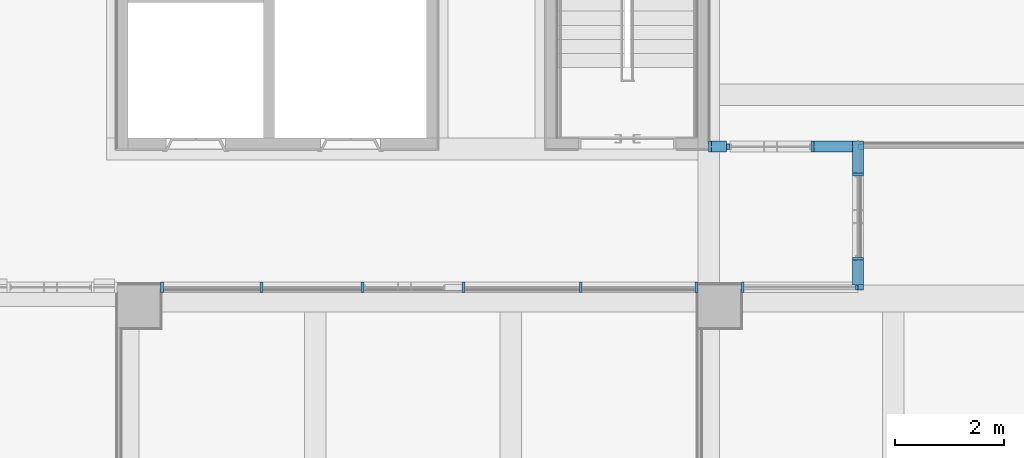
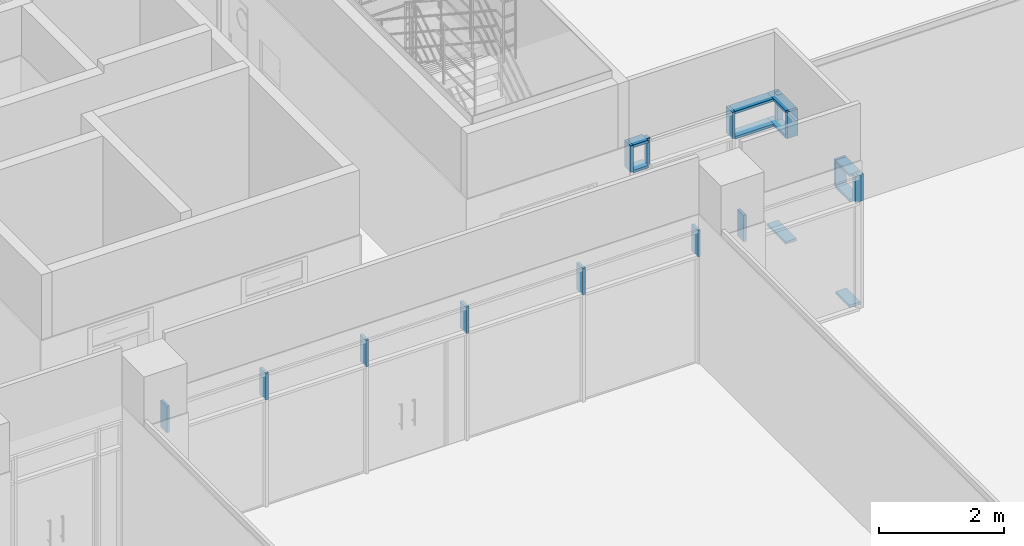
# One storey, part 17 of 76: 25 members, 4 elements without a shape of their own.
"""IFC2X3 building model written with IfcOpenShell, lengths in millimetres."""

from ifc_helpers import new_model, entity, si_unit, converted_unit, derived_unit, direction, frame, origin, origin_2d_with_axis, place, context, subcontext, project, spatial, rectangle, extrude, source, transform, mapped, material, type_object, type_shapes, element, aggregate, save


model = new_model("IFC2X3")

# Units and contexts
model_context = context("Model", 3, precision=0.01, world=origin(), true_north=direction((6.123031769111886e-17, 1.0)))
body_context = subcontext(model_context, "Body", "Model", "MODEL_VIEW")
ifc_project = project(units=[si_unit("LENGTHUNIT", "METRE", prefix="MILLI"), si_unit("AREAUNIT", "SQUARE_METRE"), si_unit("VOLUMEUNIT", "CUBIC_METRE"), converted_unit("PLANEANGLEUNIT", "DEGREE", entity("IfcRatioMeasure", 0.017453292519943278), si_unit("PLANEANGLEUNIT", "RADIAN"), dimensions=[0, 0, 0, 0, 0, 0, 0]), si_unit("MASSUNIT", "GRAM", prefix="KILO"), derived_unit("MASSDENSITYUNIT", [(si_unit("MASSUNIT", "GRAM", prefix="KILO"), 1), (si_unit("LENGTHUNIT", "METRE"), -3)]), derived_unit("MOMENTOFINERTIAUNIT", [(si_unit("LENGTHUNIT", "METRE"), 4)]), si_unit("TIMEUNIT", "SECOND"), si_unit("FREQUENCYUNIT", "HERTZ"), si_unit("THERMODYNAMICTEMPERATUREUNIT", "DEGREE_CELSIUS"), derived_unit("THERMALTRANSMITTANCEUNIT", [(si_unit("MASSUNIT", "GRAM", prefix="KILO"), 1), (si_unit("THERMODYNAMICTEMPERATUREUNIT", "KELVIN"), -1), (si_unit("TIMEUNIT", "SECOND"), -3)]), derived_unit("VOLUMETRICFLOWRATEUNIT", [(si_unit("LENGTHUNIT", "METRE"), 3), (si_unit("TIMEUNIT", "SECOND"), -1)]), derived_unit("MASSFLOWRATEUNIT", [(si_unit("MASSUNIT", "GRAM", prefix="KILO"), 1), (si_unit("TIMEUNIT", "SECOND"), -1)]), derived_unit("ROTATIONALFREQUENCYUNIT", [(si_unit("TIMEUNIT", "SECOND"), -1)]), si_unit("ELECTRICCURRENTUNIT", "AMPERE"), si_unit("ELECTRICVOLTAGEUNIT", "VOLT"), si_unit("POWERUNIT", "WATT"), si_unit("FORCEUNIT", "NEWTON", prefix="KILO"), si_unit("ILLUMINANCEUNIT", "LUX"), si_unit("LUMINOUSFLUXUNIT", "LUMEN"), si_unit("LUMINOUSINTENSITYUNIT", "CANDELA"), derived_unit("USERDEFINED", [(si_unit("MASSUNIT", "GRAM", prefix="KILO"), -1), (si_unit("LENGTHUNIT", "METRE"), -2), (si_unit("TIMEUNIT", "SECOND"), 3), (si_unit("LUMINOUSFLUXUNIT", "LUMEN"), 1)]), derived_unit("SOUNDPOWERUNIT", [(si_unit("MASSUNIT", "GRAM", prefix="KILO"), 1), (si_unit("LENGTHUNIT", "METRE"), 2), (si_unit("TIMEUNIT", "SECOND"), -3)]), derived_unit("SOUNDPRESSUREUNIT", [(si_unit("MASSUNIT", "GRAM", prefix="KILO"), 1), (si_unit("LENGTHUNIT", "METRE"), -1), (si_unit("TIMEUNIT", "SECOND"), -2)]), derived_unit("LINEARVELOCITYUNIT", [(si_unit("LENGTHUNIT", "METRE"), 1), (si_unit("TIMEUNIT", "SECOND"), -1)]), si_unit("PRESSUREUNIT", "PASCAL"), derived_unit("USERDEFINED", [(si_unit("LENGTHUNIT", "METRE"), -2), (si_unit("MASSUNIT", "GRAM", prefix="KILO"), 1), (si_unit("TIMEUNIT", "SECOND"), -2)]), derived_unit("LINEARFORCEUNIT", [(si_unit("MASSUNIT", "GRAM", prefix="KILO"), 1), (si_unit("LENGTHUNIT", "METRE"), 1), (si_unit("TIMEUNIT", "SECOND"), -2), (si_unit("LENGTHUNIT", "METRE"), -1)]), derived_unit("PLANARFORCEUNIT", [(si_unit("MASSUNIT", "GRAM", prefix="KILO"), 1), (si_unit("LENGTHUNIT", "METRE"), 1), (si_unit("TIMEUNIT", "SECOND"), -2), (si_unit("LENGTHUNIT", "METRE"), -2)])], contexts=[model_context])

# Site, building, storey
site_placement = place(None, frame((-14167.972527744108, -657.2125860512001, 0.0)))
site = spatial("IfcSite", under=ifc_project, at=site_placement, Name="Default", CompositionType="ELEMENT")
building_placement = place(site_placement, origin())
building = spatial("IfcBuilding", under=site, at=building_placement, Name="Sample Building", CompositionType="ELEMENT")
storey_placement = place(building_placement, frame((0.0, 0.0, 9300.0)))
storey = spatial("IfcBuildingStorey", under=building, at=storey_placement, Name="지상 3층", CompositionType="ELEMENT", Elevation=9300.000000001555)

# Curtain wall, member
curtain_wall_type = type_object("IfcCurtainWallType", Name="커튼월:CW112-스테인리스 스틸 커튼월", PredefinedType="NOTDEFINED")
curtain_wall_1_placement = place(storey_placement, frame((0.0, 0.0, -9300.0)))
curtain_wall_1 = element("IfcCurtainWall", 1, at=curtain_wall_1_placement, inside=storey, type_object=curtain_wall_type, Name="커튼월:CW112-스테인리스 스틸 커튼월", ObjectType="커튼월:CW112-스테인리스 스틸 커튼월")
ifc_material = material(Name="<Unnamed>")
member_type_1 = type_object("IfcMemberType", Name="직사각형 멀리언:CW200-직사각형 멀리언 50x200mm", PredefinedType="MULLION", material=ifc_material)
shared_shape_1 = source(origin(), body_context, "Body", "SweptSolid", [
    extrude(rectangle(XDim=200.0, YDim=50.0, at=origin_2d_with_axis()), frame((-25.0, 0.0, -520.0), z_axis=(0.0, 0.0, 1.0), x_axis=(0.0, -1.0, 0.0)), (0.0, 0.0, 1.0), 520.0000000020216),
])
type_shapes(member_type_1, [shared_shape_1])
member_1_placement = place(curtain_wall_1_placement, frame((30867.95511434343, 13012.194878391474, 12000.0), z_axis=(0.0, 0.0, 1.0), x_axis=(-1.0, 0.0, 0.0)))
member_1 = element("IfcMember", 2, at=member_1_placement, type_object=member_type_1, material=ifc_material, Name="직사각형 멀리언:CW200-직사각형 멀리언 50x200mm", ObjectType="직사각형 멀리언:CW200-직사각형 멀리언 50x200mm", context=body_context, shape_type="MappedRepresentation", body=[
    mapped(shared_shape_1, transform((0.0, 0.0, 0.0), scale=1.0)),
])

curtain_wall_2_placement = place(storey_placement, frame((0.0, 0.0, -9300.0)))
curtain_wall_2 = element("IfcCurtainWall", 3, at=curtain_wall_2_placement, inside=storey, type_object=curtain_wall_type, Name="커튼월:CW112-스테인리스 스틸 커튼월", ObjectType="커튼월:CW112-스테인리스 스틸 커튼월")
member_2_placement = place(curtain_wall_2_placement, frame((41567.95773553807, 13012.212383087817, 12000.0), z_axis=(0.0, 0.0, 1.0), x_axis=(-1.0, 0.0, 0.0)))
member_2 = element("IfcMember", 4, at=member_2_placement, type_object=member_type_1, material=ifc_material, Name="직사각형 멀리언:CW200-직사각형 멀리언 50x200mm", ObjectType="직사각형 멀리언:CW200-직사각형 멀리언 50x200mm", context=body_context, shape_type="MappedRepresentation", body=[
    mapped(shared_shape_1, transform((0.0, 0.0, 0.0), scale=1.0)),
])

# Member
member_type_2 = type_object("IfcMemberType", Name="직사각형 멀리언:CW200-직사각형 멀리언 50x200mm", PredefinedType="MULLION", material=ifc_material)
shared_shape_2 = source(origin(), body_context, "Body", "SweptSolid", [
    extrude(rectangle(XDim=200.0, YDim=50.0, at=origin_2d_with_axis()), frame((-25.0, 0.0, -520.0), z_axis=(0.0, 0.0, 1.0), x_axis=(0.0, -1.0, 0.0)), (0.0, 0.0, 1.0), 520.0000000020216),
])
type_shapes(member_type_2, [shared_shape_2])
member_3_placement = place(curtain_wall_1_placement, frame((40767.9724911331, 13012.194878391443, 11480.0), z_axis=(0.0, 0.0, -1.0), x_axis=(1.0, 0.0, 0.0)))
member_3 = element("IfcMember", 5, at=member_3_placement, type_object=member_type_2, material=ifc_material, Name="직사각형 멀리언:CW200-직사각형 멀리언 50x200mm", ObjectType="직사각형 멀리언:CW200-직사각형 멀리언 50x200mm", context=body_context, shape_type="MappedRepresentation", body=[
    mapped(shared_shape_2, transform((0.0, 0.0, 0.0), scale=1.0)),
])

member_type_3 = type_object("IfcMemberType", Name="직사각형 멀리언:CW200-직사각형 멀리언 50x200mm", PredefinedType="MULLION", material=ifc_material)
shared_shape_3 = source(origin(), body_context, "Body", "SweptSolid", [
    extrude(rectangle(XDim=200.0, YDim=50.0, at=origin_2d_with_axis()), frame((0.0, 0.0, -520.0), z_axis=(0.0, 0.0, 1.0), x_axis=(0.0, -1.0, 0.0)), (0.0, 0.0, 1.0), 520.0000000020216),
])
type_shapes(member_type_3, [shared_shape_3])
member_4_placement = place(curtain_wall_1_placement, frame((32727.97249113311, 13012.19487839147, 11480.0), z_axis=(0.0, 0.0, -1.0), x_axis=(1.0, 0.0, 0.0)))
member_4 = element("IfcMember", 6, at=member_4_placement, type_object=member_type_3, material=ifc_material, Name="직사각형 멀리언:CW200-직사각형 멀리언 50x200mm", ObjectType="직사각형 멀리언:CW200-직사각형 멀리언 50x200mm", context=body_context, shape_type="MappedRepresentation", body=[
    mapped(shared_shape_3, transform((0.0, 0.0, 0.0), scale=1.0)),
])

member_5_placement = place(curtain_wall_1_placement, frame((34587.972491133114, 13012.194878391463, 11480.0), z_axis=(0.0, 0.0, -1.0), x_axis=(1.0, 0.0, 0.0)))
member_5 = element("IfcMember", 7, at=member_5_placement, type_object=member_type_3, material=ifc_material, Name="직사각형 멀리언:CW200-직사각형 멀리언 50x200mm", ObjectType="직사각형 멀리언:CW200-직사각형 멀리언 50x200mm", context=body_context, shape_type="MappedRepresentation", body=[
    mapped(shared_shape_3, transform((0.0, 0.0, 0.0), scale=1.0)),
])

member_6_placement = place(curtain_wall_1_placement, frame((36447.972491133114, 13012.194878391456, 11480.0), z_axis=(0.0, 0.0, -1.0), x_axis=(1.0, 0.0, 0.0)))
member_6 = element("IfcMember", 8, at=member_6_placement, type_object=member_type_3, material=ifc_material, Name="직사각형 멀리언:CW200-직사각형 멀리언 50x200mm", ObjectType="직사각형 멀리언:CW200-직사각형 멀리언 50x200mm", context=body_context, shape_type="MappedRepresentation", body=[
    mapped(shared_shape_3, transform((0.0, 0.0, 0.0), scale=1.0)),
])

member_7_placement = place(curtain_wall_1_placement, frame((38607.972491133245, 13012.19487839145, 11480.0), z_axis=(0.0, 0.0, -1.0), x_axis=(1.0, 0.0, 0.0)))
member_7 = element("IfcMember", 9, at=member_7_placement, type_object=member_type_3, material=ifc_material, Name="직사각형 멀리언:CW200-직사각형 멀리언 50x200mm", ObjectType="직사각형 멀리언:CW200-직사각형 멀리언 50x200mm", context=body_context, shape_type="MappedRepresentation", body=[
    mapped(shared_shape_3, transform((0.0, 0.0, 0.0), scale=1.0)),
])

aggregate(curtain_wall_1, [member_1, member_3, member_4, member_5, member_6, member_7])

# Curtain wall, members
curtain_wall_3_placement = place(storey_placement, frame((0.0, 0.0, -9300.0)))
curtain_wall_3 = element("IfcCurtainWall", 10, at=curtain_wall_3_placement, inside=storey, type_object=curtain_wall_type, Name="커튼월:CW112-스테인리스 스틸 커튼월", ObjectType="커튼월:CW112-스테인리스 스틸 커튼월")
member_8_placement = place(curtain_wall_3_placement, frame((43717.972491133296, 13537.177678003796, 11480.0), z_axis=(0.0, 0.0, -1.0), x_axis=(0.0, 1.0, 0.0)))
member_8 = element("IfcMember", 11, at=member_8_placement, type_object=member_type_3, material=ifc_material, Name="직사각형 멀리언:CW200-직사각형 멀리언 50x200mm", ObjectType="직사각형 멀리언:CW200-직사각형 멀리언 50x200mm", context=body_context, shape_type="MappedRepresentation", body=[
    mapped(shared_shape_3, transform((0.0, 0.0, 0.0), scale=1.0)),
])
member_9_placement = place(curtain_wall_3_placement, frame((43717.972491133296, 15087.177678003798, 11480.0), z_axis=(0.0, 0.0, -1.0), x_axis=(0.0, 1.0, 0.0)))
member_9 = element("IfcMember", 12, at=member_9_placement, type_object=member_type_3, material=ifc_material, Name="직사각형 멀리언:CW200-직사각형 멀리언 50x200mm", ObjectType="직사각형 멀리언:CW200-직사각형 멀리언 50x200mm", context=body_context, shape_type="MappedRepresentation", body=[
    mapped(shared_shape_3, transform((0.0, 0.0, 0.0), scale=1.0)),
])

curtain_wall_4_placement = place(storey_placement, frame((0.0, 0.0, -9300.0)))
curtain_wall_4 = element("IfcCurtainWall", 13, at=curtain_wall_4_placement, inside=storey, type_object=curtain_wall_type, Name="커튼월:CW112-스테인리스 스틸 커튼월", ObjectType="커튼월:CW112-스테인리스 스틸 커튼월")
member_type_4 = type_object("IfcMemberType", Name="직사각형 멀리언:CW200-직사각형 멀리언 50x200mm", PredefinedType="MULLION", material=ifc_material)
shared_shape_4 = source(origin(), body_context, "Body", "SweptSolid", [
    extrude(rectangle(XDim=200.0, YDim=50.0, at=origin_2d_with_axis()), frame((-25.0, 0.0, -280.00869298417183), z_axis=(0.0, 0.0, 1.0), x_axis=(0.0, -1.0, 0.0)), (0.0, 0.0, 1.0), 280.0086929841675),
])
type_shapes(member_type_4, [shared_shape_4])
member_10_placement = place(curtain_wall_4_placement, frame((41017.963798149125, 15602.177678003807, 12000.0), z_axis=(-1.0, 0.0, 0.0), x_axis=(0.0, 0.0, 1.0)))
member_10 = element("IfcMember", 14, at=member_10_placement, type_object=member_type_4, material=ifc_material, Name="직사각형 멀리언:CW200-직사각형 멀리언 50x200mm", ObjectType="직사각형 멀리언:CW200-직사각형 멀리언 50x200mm", context=body_context, shape_type="MappedRepresentation", body=[
    mapped(shared_shape_4, transform((0.0, 0.0, 0.0), scale=1.0)),
])
member_type_5 = type_object("IfcMemberType", Name="직사각형 멀리언:CW200-직사각형 멀리언 50x200mm", PredefinedType="MULLION", material=ifc_material)
shared_shape_5 = source(origin(), body_context, "Body", "SweptSolid", [
    extrude(rectangle(XDim=200.0, YDim=50.0, at=origin_2d_with_axis()), frame((0.0, 0.0, -280.00869298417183), z_axis=(0.0, 0.0, 1.0), x_axis=(0.0, -1.0, 0.0)), (0.0, 0.0, 1.0), 280.0086929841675),
])
type_shapes(member_type_5, [shared_shape_5])
member_11_placement = place(curtain_wall_4_placement, frame((41017.963798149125, 15602.177678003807, 11480.0), z_axis=(-1.0, 0.0, 0.0), x_axis=(0.0, 0.0, 1.0)))
member_11 = element("IfcMember", 15, at=member_11_placement, type_object=member_type_5, material=ifc_material, Name="직사각형 멀리언:CW200-직사각형 멀리언 50x200mm", ObjectType="직사각형 멀리언:CW200-직사각형 멀리언 50x200mm", context=body_context, shape_type="MappedRepresentation", body=[
    mapped(shared_shape_5, transform((0.0, 0.0, 0.0), scale=1.0)),
])

# Member
member_type_6 = type_object("IfcMemberType", Name="직사각형 멀리언:CW200-직사각형 멀리언 100 x 100mm", PredefinedType="MULLION", material=ifc_material)
shared_shape_6 = source(origin(), body_context, "Body", "SweptSolid", [
    extrude(rectangle(XDim=100.00000000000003, YDim=100.0, at=origin_2d_with_axis()), frame((-50.0, 0.0, -520.0), z_axis=(0.0, 0.0, 1.0), x_axis=(0.0, -1.0, 0.0)), (0.0, 0.0, 1.0), 519.9999999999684),
])
type_shapes(member_type_6, [shared_shape_6])
member_12_placement = place(curtain_wall_2_placement, frame((43817.95773553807, 13012.21238308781, 11480.0), z_axis=(0.0, 0.0, -1.0), x_axis=(1.0, 0.0, 0.0)))
member_12 = element("IfcMember", 16, at=member_12_placement, type_object=member_type_6, material=ifc_material, Name="직사각형 멀리언:CW200-직사각형 멀리언 100 x 100mm", ObjectType="직사각형 멀리언:CW200-직사각형 멀리언 100 x 100mm", context=body_context, shape_type="MappedRepresentation", body=[
    mapped(shared_shape_6, transform((0.0, 0.0, 0.0), scale=1.0)),
])

aggregate(curtain_wall_2, [member_2, member_12])

member_type_7 = type_object("IfcMemberType", Name="직사각형 멀리언:CW200-직사각형 멀리언 100 x 100mm", PredefinedType="MULLION", material=ifc_material)
shared_shape_7 = source(origin(), body_context, "Body", "SweptSolid", [
    extrude(rectangle(XDim=100.00000000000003, YDim=100.0, at=origin_2d_with_axis()), frame((-50.0, 0.0, -520.0), z_axis=(0.0, 0.0, 1.0), x_axis=(0.0, -1.0, 0.0)), (0.0, 0.0, 1.0), 520.000000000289),
])
type_shapes(member_type_7, [shared_shape_7])
member_13_placement = place(curtain_wall_3_placement, frame((43717.972491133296, 12957.21258605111, 12000.0), z_axis=(0.0, 0.0, 1.0), x_axis=(0.0, -1.0, 0.0)))
member_13 = element("IfcMember", 17, at=member_13_placement, type_object=member_type_7, material=ifc_material, Name="직사각형 멀리언:CW200-직사각형 멀리언 100 x 100mm", ObjectType="직사각형 멀리언:CW200-직사각형 멀리언 100 x 100mm", context=body_context, shape_type="MappedRepresentation", body=[
    mapped(shared_shape_7, transform((0.0, 0.0, 0.0), scale=1.0)),
])

member_type_8 = type_object("IfcMemberType", Name="직사각형 멀리언:CW200-직사각형 멀리언 50x200mm", PredefinedType="MULLION", material=ifc_material)
shared_shape_8 = source(origin(), body_context, "Body", "SweptSolid", [
    extrude(rectangle(XDim=200.0, YDim=50.0, at=origin_2d_with_axis()), frame((-25.0, 0.0, -454.96509195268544), z_axis=(0.0, 0.0, 1.0), x_axis=(0.0, -1.0, 0.0)), (0.0, 0.0, 1.0), 454.96509195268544),
])
type_shapes(member_type_8, [shared_shape_8])
member_14_placement = place(curtain_wall_3_placement, frame((43717.972491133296, 13512.177678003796, 12000.0), z_axis=(0.0, 1.0, 0.0), x_axis=(0.0, 0.0, 1.0)))
member_14 = element("IfcMember", 18, at=member_14_placement, type_object=member_type_8, material=ifc_material, Name="직사각형 멀리언:CW200-직사각형 멀리언 50x200mm", ObjectType="직사각형 멀리언:CW200-직사각형 멀리언 50x200mm", context=body_context, shape_type="MappedRepresentation", body=[
    mapped(shared_shape_8, transform((0.0, 0.0, 0.0), scale=1.0)),
])

member_type_9 = type_object("IfcMemberType", Name="직사각형 멀리언:CW200-직사각형 멀리언 50x200mm", PredefinedType="MULLION", material=ifc_material)
shared_shape_9 = source(origin(), body_context, "Body", "SweptSolid", [
    extrude(rectangle(XDim=200.0, YDim=50.0, at=origin_2d_with_axis()), frame((0.0, 0.0, -454.96509195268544), z_axis=(0.0, 0.0, 1.0), x_axis=(0.0, -1.0, 0.0)), (0.0, 0.0, 1.0), 454.96509195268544),
])
type_shapes(member_type_9, [shared_shape_9])
member_15_placement = place(curtain_wall_3_placement, frame((43717.972491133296, 13512.177678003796, 11480.0), z_axis=(0.0, 1.0, 0.0), x_axis=(0.0, 0.0, 1.0)))
member_15 = element("IfcMember", 19, at=member_15_placement, type_object=member_type_9, material=ifc_material, Name="직사각형 멀리언:CW200-직사각형 멀리언 50x200mm", ObjectType="직사각형 멀리언:CW200-직사각형 멀리언 50x200mm", context=body_context, shape_type="MappedRepresentation", body=[
    mapped(shared_shape_9, transform((0.0, 0.0, 0.0), scale=1.0)),
])

member_type_10 = type_object("IfcMemberType", Name="직사각형 멀리언:CW200-직사각형 멀리언 100 x 100mm", PredefinedType="MULLION", material=ifc_material)
shared_shape_10 = source(origin(), body_context, "Body", "SweptSolid", [
    extrude(rectangle(XDim=100.0, YDim=100.0, at=origin_2d_with_axis()), frame((-50.0, 0.0, -520.0), z_axis=(0.0, 0.0, 1.0), x_axis=(0.0, -1.0, 0.0)), (0.0, 0.0, 1.0), 519.9999999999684),
])
type_shapes(member_type_10, [shared_shape_10])
member_16_placement = place(curtain_wall_4_placement, frame((43817.96379814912, 15602.1776780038, 12000.0)))
member_16 = element("IfcMember", 20, at=member_16_placement, type_object=member_type_10, material=ifc_material, Name="직사각형 멀리언:CW200-직사각형 멀리언 100 x 100mm", ObjectType="직사각형 멀리언:CW200-직사각형 멀리언 100 x 100mm", context=body_context, shape_type="MappedRepresentation", body=[
    mapped(shared_shape_10, transform((0.0, 0.0, 0.0), scale=1.0)),
])

member_type_11 = type_object("IfcMemberType", Name="직사각형 멀리언:CW200-직사각형 멀리언 50x200mm", PredefinedType="MULLION", material=ifc_material)
shared_shape_11 = source(origin(), body_context, "Body", "SweptSolid", [
    extrude(rectangle(XDim=200.0, YDim=50.0, at=origin_2d_with_axis()), frame((-25.0, 0.0, -520.0), z_axis=(0.0, 0.0, 1.0), x_axis=(0.0, -1.0, 0.0)), (0.0, 0.0, 1.0), 519.9999999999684),
])
type_shapes(member_type_11, [shared_shape_11])
member_17_placement = place(curtain_wall_4_placement, frame((40967.963798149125, 15602.177678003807, 11480.0), z_axis=(0.0, 0.0, -1.0), x_axis=(-1.0, 0.0, 0.0)))
member_17 = element("IfcMember", 21, at=member_17_placement, type_object=member_type_11, material=ifc_material, Name="직사각형 멀리언:CW200-직사각형 멀리언 50x200mm", ObjectType="직사각형 멀리언:CW200-직사각형 멀리언 50x200mm", context=body_context, shape_type="MappedRepresentation", body=[
    mapped(shared_shape_11, transform((0.0, 0.0, 0.0), scale=1.0)),
])

member_type_12 = type_object("IfcMemberType", Name="직사각형 멀리언:CW200-직사각형 멀리언 50x200mm", PredefinedType="MULLION", material=ifc_material)
shared_shape_12 = source(origin(), body_context, "Body", "SweptSolid", [
    extrude(rectangle(XDim=200.0, YDim=50.0, at=origin_2d_with_axis()), frame((0.0, 0.0, -520.0), z_axis=(0.0, 0.0, 1.0), x_axis=(0.0, -1.0, 0.0)), (0.0, 0.0, 1.0), 519.9999999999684),
])
type_shapes(member_type_12, [shared_shape_12])
member_18_placement = place(curtain_wall_4_placement, frame((42877.972491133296, 15602.177678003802, 11480.0), z_axis=(0.0, 0.0, -1.0), x_axis=(-1.0, 0.0, 0.0)))
member_18 = element("IfcMember", 22, at=member_18_placement, type_object=member_type_12, material=ifc_material, Name="직사각형 멀리언:CW200-직사각형 멀리언 50x200mm", ObjectType="직사각형 멀리언:CW200-직사각형 멀리언 50x200mm", context=body_context, shape_type="MappedRepresentation", body=[
    mapped(shared_shape_12, transform((0.0, 0.0, 0.0), scale=1.0)),
])

member_type_13 = type_object("IfcMemberType", Name="직사각형 멀리언:CW200-직사각형 멀리언 60 x 100mm", PredefinedType="MULLION", material=ifc_material)
shared_shape_13 = source(origin(), body_context, "Body", "SweptSolid", [
    extrude(rectangle(XDim=100.0, YDim=60.0, at=origin_2d_with_axis()), frame((0.0, 0.0, -520.0), z_axis=(0.0, 0.0, 1.0), x_axis=(0.0, -1.0, 0.0)), (0.0, 0.0, 1.0), 519.9999999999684),
])
type_shapes(member_type_13, [shared_shape_13])
member_19_placement = place(curtain_wall_4_placement, frame((41327.972491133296, 15602.177678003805, 11480.0), z_axis=(0.0, 0.0, -1.0), x_axis=(-1.0, 0.0, 0.0)))
member_19 = element("IfcMember", 23, at=member_19_placement, type_object=member_type_13, material=ifc_material, Name="직사각형 멀리언:CW200-직사각형 멀리언 60 x 100mm", ObjectType="직사각형 멀리언:CW200-직사각형 멀리언 60 x 100mm", context=body_context, shape_type="MappedRepresentation", body=[
    mapped(shared_shape_13, transform((0.0, 0.0, 0.0), scale=1.0)),
])

member_type_14 = type_object("IfcMemberType", Name="직사각형 멀리언:CW200-직사각형 멀리언 50x200mm", PredefinedType="MULLION", material=ifc_material)
shared_shape_14 = source(origin(), body_context, "Body", "SweptSolid", [
    extrude(rectangle(XDim=200.0, YDim=50.0, at=origin_2d_with_axis()), frame((-25.0, 0.0, -595.0349080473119), z_axis=(0.0, 0.0, 1.0), x_axis=(0.0, -1.0, 0.0)), (0.0, 0.0, 1.0), 595.0349080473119),
])
type_shapes(member_type_14, [shared_shape_14])
member_20_placement = place(curtain_wall_3_placement, frame((43717.972491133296, 15707.21258605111, 12000.0), z_axis=(0.0, 1.0, 0.0), x_axis=(0.0, 0.0, 1.0)))
member_20 = element("IfcMember", 24, at=member_20_placement, type_object=member_type_14, material=ifc_material, Name="직사각형 멀리언:CW200-직사각형 멀리언 50x200mm", ObjectType="직사각형 멀리언:CW200-직사각형 멀리언 50x200mm", context=body_context, shape_type="MappedRepresentation", body=[
    mapped(shared_shape_14, transform((0.0, 0.0, 0.0), scale=1.0)),
])

member_type_15 = type_object("IfcMemberType", Name="직사각형 멀리언:CW200-직사각형 멀리언 50x200mm", PredefinedType="MULLION", material=ifc_material)
shared_shape_15 = source(origin(), body_context, "Body", "SweptSolid", [
    extrude(rectangle(XDim=200.0, YDim=50.0, at=origin_2d_with_axis()), frame((-25.0, 0.0, -454.96509195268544), z_axis=(0.0, 0.0, 1.0), x_axis=(0.0, -1.0, 0.0)), (0.0, 0.0, 1.0), 454.9650919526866),
])
type_shapes(member_type_15, [shared_shape_15])
member_21_placement = place(curtain_wall_3_placement, frame((43717.972491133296, 13057.21258605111, 9380.0), z_axis=(0.0, -1.0, 0.0), x_axis=(0.0, 0.0, -1.0)))
member_21 = element("IfcMember", 25, at=member_21_placement, type_object=member_type_15, material=ifc_material, Name="직사각형 멀리언:CW200-직사각형 멀리언 50x200mm", ObjectType="직사각형 멀리언:CW200-직사각형 멀리언 50x200mm", context=body_context, shape_type="MappedRepresentation", body=[
    mapped(shared_shape_15, transform((0.0, 0.0, 0.0), scale=1.0)),
])

member_type_16 = type_object("IfcMemberType", Name="직사각형 멀리언:CW200-직사각형 멀리언 50x200mm", PredefinedType="MULLION", material=ifc_material)
shared_shape_16 = source(origin(), body_context, "Body", "SweptSolid", [
    extrude(rectangle(XDim=200.0, YDim=50.0, at=origin_2d_with_axis()), frame((-25.0, 0.0, -595.0349080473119), z_axis=(0.0, 0.0, 1.0), x_axis=(0.0, -1.0, 0.0)), (0.0, 0.0, 1.0), 595.034908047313),
])
type_shapes(member_type_16, [shared_shape_16])
member_22_placement = place(curtain_wall_3_placement, frame((43717.972491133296, 15112.177678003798, 9380.0), z_axis=(0.0, -1.0, 0.0), x_axis=(0.0, 0.0, -1.0)))
member_22 = element("IfcMember", 26, at=member_22_placement, type_object=member_type_16, material=ifc_material, Name="직사각형 멀리언:CW200-직사각형 멀리언 50x200mm", ObjectType="직사각형 멀리언:CW200-직사각형 멀리언 50x200mm", context=body_context, shape_type="MappedRepresentation", body=[
    mapped(shared_shape_16, transform((0.0, 0.0, 0.0), scale=1.0)),
])

member_type_17 = type_object("IfcMemberType", Name="직사각형 멀리언:CW200-직사각형 멀리언 50x200mm", PredefinedType="MULLION", material=ifc_material)
shared_shape_17 = source(origin(), body_context, "Body", "SweptSolid", [
    extrude(rectangle(XDim=200.0, YDim=50.0, at=origin_2d_with_axis()), frame((0.0, 0.0, -595.0349080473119), z_axis=(0.0, 0.0, 1.0), x_axis=(0.0, -1.0, 0.0)), (0.0, 0.0, 1.0), 595.0349080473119),
])
type_shapes(member_type_17, [shared_shape_17])
member_23_placement = place(curtain_wall_3_placement, frame((43717.972491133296, 15707.21258605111, 11480.0), z_axis=(0.0, 1.0, 0.0), x_axis=(0.0, 0.0, 1.0)))
member_23 = element("IfcMember", 27, at=member_23_placement, type_object=member_type_17, material=ifc_material, Name="직사각형 멀리언:CW200-직사각형 멀리언 50x200mm", ObjectType="직사각형 멀리언:CW200-직사각형 멀리언 50x200mm", context=body_context, shape_type="MappedRepresentation", body=[
    mapped(shared_shape_17, transform((0.0, 0.0, 0.0), scale=1.0)),
])

aggregate(curtain_wall_3, [member_20, member_21, member_13, member_14, member_15, member_8, member_22, member_23, member_9])

member_type_18 = type_object("IfcMemberType", Name="직사각형 멀리언:CW200-직사각형 멀리언 50x200mm", PredefinedType="MULLION", material=ifc_material)
shared_shape_18 = source(origin(), body_context, "Body", "SweptSolid", [
    extrude(rectangle(XDim=200.0, YDim=50.0, at=origin_2d_with_axis()), frame((0.0, 0.0, -814.9913070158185), z_axis=(0.0, 0.0, 1.0), x_axis=(0.0, -1.0, 0.0)), (0.0, 0.0, 1.0), 814.9913070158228),
])
type_shapes(member_type_18, [shared_shape_18])
member_24_placement = place(curtain_wall_4_placement, frame((42902.9724911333, 15602.177678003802, 11480.0), z_axis=(-1.0, 0.0, 0.0), x_axis=(0.0, 0.0, 1.0)))
member_24 = element("IfcMember", 28, at=member_24_placement, type_object=member_type_18, material=ifc_material, Name="직사각형 멀리언:CW200-직사각형 멀리언 50x200mm", ObjectType="직사각형 멀리언:CW200-직사각형 멀리언 50x200mm", context=body_context, shape_type="MappedRepresentation", body=[
    mapped(shared_shape_18, transform((0.0, 0.0, 0.0), scale=1.0)),
])

member_type_19 = type_object("IfcMemberType", Name="직사각형 멀리언:CW200-직사각형 멀리언 50x200mm", PredefinedType="MULLION", material=ifc_material)
shared_shape_19 = source(origin(), body_context, "Body", "SweptSolid", [
    extrude(rectangle(XDim=200.0, YDim=50.0, at=origin_2d_with_axis()), frame((-25.0, 0.0, -814.9913070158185), z_axis=(0.0, 0.0, 1.0), x_axis=(0.0, -1.0, 0.0)), (0.0, 0.0, 1.0), 814.9913070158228),
])
type_shapes(member_type_19, [shared_shape_19])
member_25_placement = place(curtain_wall_4_placement, frame((42902.9724911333, 15602.177678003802, 12000.0), z_axis=(-1.0, 0.0, 0.0), x_axis=(0.0, 0.0, 1.0)))
member_25 = element("IfcMember", 29, at=member_25_placement, type_object=member_type_19, material=ifc_material, Name="직사각형 멀리언:CW200-직사각형 멀리언 50x200mm", ObjectType="직사각형 멀리언:CW200-직사각형 멀리언 50x200mm", context=body_context, shape_type="MappedRepresentation", body=[
    mapped(shared_shape_19, transform((0.0, 0.0, 0.0), scale=1.0)),
])

aggregate(curtain_wall_4, [member_10, member_16, member_17, member_24, member_25, member_18, member_11, member_19])

save(model, "model.ifc")
